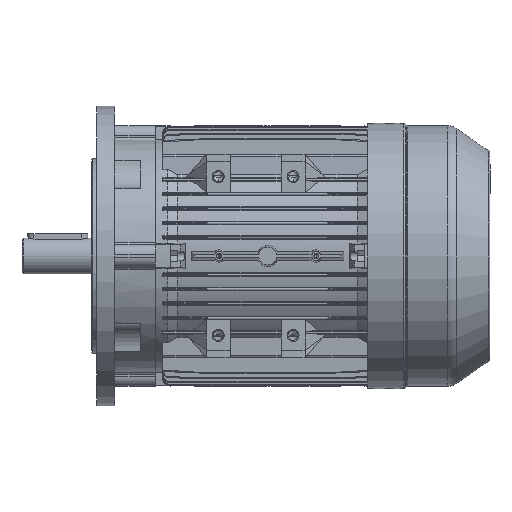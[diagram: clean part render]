
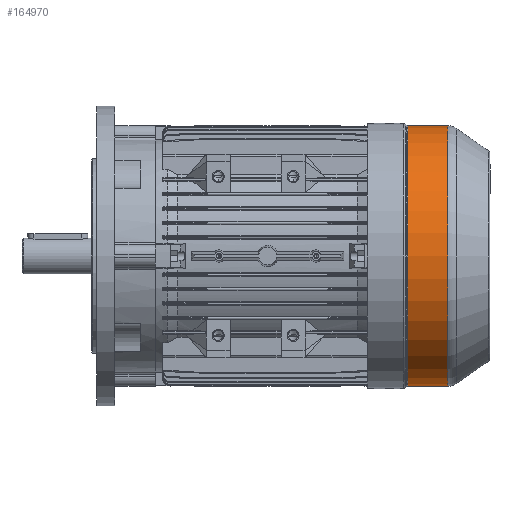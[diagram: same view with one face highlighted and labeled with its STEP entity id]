
A CAD part, front view. The second image highlights one B-rep face of the part: STEP entity #164970.
In plain terms, the highlighted cylindrical face has radius 87 mm (diameter 174 mm), a partial arc.
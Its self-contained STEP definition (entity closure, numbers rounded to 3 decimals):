
#71342 = CARTESIAN_POINT ( 'NONE',  ( -26.914, 0., -87. ) ) ;
#71417 = CARTESIAN_POINT ( 'NONE',  ( -26.914, 0., 87. ) ) ;
#71523 = CARTESIAN_POINT ( 'NONE',  ( -53.857, 0., -87. ) ) ;
#71717 = CARTESIAN_POINT ( 'NONE',  ( -80., 0., 87. ) ) ;
#71718 = LINE ( 'NONE', #71717, #71751 ) ;
#71719 = DIRECTION ( 'NONE',  ( -1., 0., 0. ) ) ;
#71720 = VECTOR ( 'NONE', #71719, 1000. ) ;
#71721 = CARTESIAN_POINT ( 'NONE',  ( -80., 0., -87. ) ) ;
#71731 = LINE ( 'NONE', #71721, #71720 ) ;
#71750 = DIRECTION ( 'NONE',  ( -1., 0., 0. ) ) ;
#71751 = VECTOR ( 'NONE', #71750, 1000. ) ;
#71945 = DIRECTION ( 'NONE',  ( 0., 0., 1. ) ) ;
#71946 = DIRECTION ( 'NONE',  ( -1., 0., 0. ) ) ;
#71947 = AXIS2_PLACEMENT_3D ( 'NONE', #71957, #71946, #71945 ) ;
#71948 = CIRCLE ( 'NONE', #71947, 87. ) ;
#71956 = CARTESIAN_POINT ( 'NONE',  ( -53.857, 0., 87. ) ) ;
#71957 = CARTESIAN_POINT ( 'NONE',  ( -26.914, 0., 0. ) ) ;
#113262 = VERTEX_POINT ( 'NONE', #71342 ) ;
#113342 = VERTEX_POINT ( 'NONE', #71417 ) ;
#113385 = VERTEX_POINT ( 'NONE', #71523 ) ;
#113458 = EDGE_CURVE ( 'NONE', #113262, #113385, #71731, .T. ) ;
#113464 = EDGE_CURVE ( 'NONE', #113342, #113585, #71718, .T. ) ;
#113576 = EDGE_CURVE ( 'NONE', #113262, #113342, #71948, .T. ) ;
#113585 = VERTEX_POINT ( 'NONE', #71956 ) ;
#126638 = DIRECTION ( 'NONE',  ( 0., 0., -1. ) ) ;
#126641 = DIRECTION ( 'NONE',  ( 1., 0., 0. ) ) ;
#126643 = AXIS2_PLACEMENT_3D ( 'NONE', #126685, #126641, #126638 ) ;
#126645 = CIRCLE ( 'NONE', #126643, 87. ) ;
#126651 = DIRECTION ( 'NONE',  ( 0., 0., 1. ) ) ;
#126653 = DIRECTION ( 'NONE',  ( -1., 0., 0. ) ) ;
#126683 = CYLINDRICAL_SURFACE ( 'NONE', #126689, 87. ) ;
#126685 = CARTESIAN_POINT ( 'NONE',  ( -53.857, 0., 0. ) ) ;
#126689 = AXIS2_PLACEMENT_3D ( 'NONE', #126726, #126653, #126651 ) ;
#126691 = FACE_OUTER_BOUND ( 'NONE', #164985, .T. ) ;
#126726 = CARTESIAN_POINT ( 'NONE',  ( -80., 0., 0. ) ) ;
#164970 = ADVANCED_FACE ( 'NONE', ( #126691 ), #126683, .T. ) ;
#164971 = ORIENTED_EDGE ( 'NONE', *, *, #113464, .T. ) ;
#164972 = ORIENTED_EDGE ( 'NONE', *, *, #113458, .F. ) ;
#164973 = ORIENTED_EDGE ( 'NONE', *, *, #113576, .T. ) ;
#164975 = EDGE_CURVE ( 'NONE', #113585, #113385, #126645, .T. ) ;
#164983 = ORIENTED_EDGE ( 'NONE', *, *, #164975, .T. ) ;
#164985 = EDGE_LOOP ( 'NONE', ( #164972, #164973, #164971, #164983 ) ) ;
